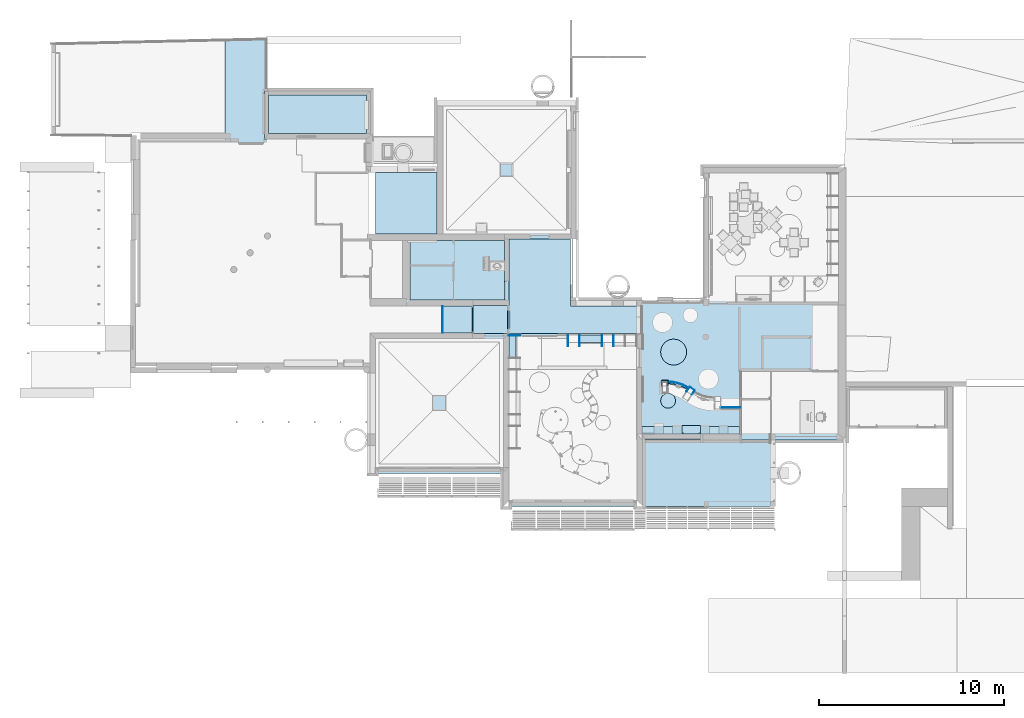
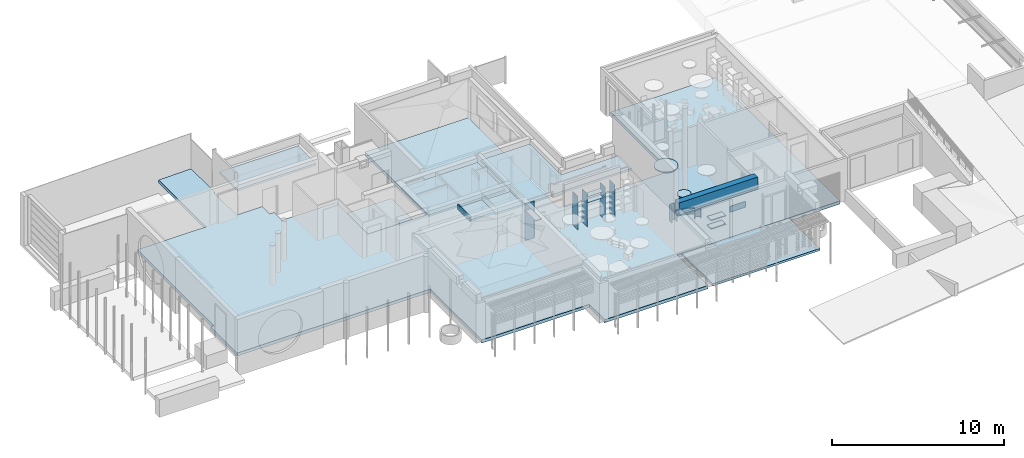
# One storey, part 12 of 64: 27 slabs, 2 openings.
"""IFC2X3 building model written with IfcOpenShell, lengths in metres."""

from ifc_helpers import new_model, entity, si_unit, converted_unit, derived_unit, direction, frame, frame_2d, origin, origin_2d_with_axis, place, context, subcontext, project, spatial, polyline, circle_curve, parameter, trimmed, segment, composite_curve, rectangle, circle, outline, extrude, material, layer, layer_set, layer_usage, type_object, element, save


model = new_model("IFC2X3")

# Units and contexts
model_context = context("Model", 3, precision=1e-05, world=origin(), true_north=direction((6.123031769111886e-17, 1.0)))
body_context = subcontext(model_context, "Body", "Model", "MODEL_VIEW")
ifc_project = project(units=[si_unit("LENGTHUNIT", "METRE"), si_unit("AREAUNIT", "SQUARE_METRE"), si_unit("VOLUMEUNIT", "CUBIC_METRE"), converted_unit("PLANEANGLEUNIT", "DEGREE", entity("IfcRatioMeasure", 0.017453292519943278), si_unit("PLANEANGLEUNIT", "RADIAN"), dimensions=[0, 0, 0, 0, 0, 0, 0]), si_unit("MASSUNIT", "GRAM", prefix="KILO"), derived_unit("MASSDENSITYUNIT", [(si_unit("MASSUNIT", "GRAM", prefix="KILO"), 1), (si_unit("LENGTHUNIT", "METRE"), -3)]), derived_unit("MOMENTOFINERTIAUNIT", [(si_unit("LENGTHUNIT", "METRE"), 4)]), si_unit("TIMEUNIT", "SECOND"), si_unit("FREQUENCYUNIT", "HERTZ"), si_unit("THERMODYNAMICTEMPERATUREUNIT", "DEGREE_CELSIUS"), derived_unit("THERMALTRANSMITTANCEUNIT", [(si_unit("MASSUNIT", "GRAM", prefix="KILO"), 1), (si_unit("THERMODYNAMICTEMPERATUREUNIT", "KELVIN"), -1), (si_unit("TIMEUNIT", "SECOND"), -3)]), derived_unit("THERMALCONDUCTANCEUNIT", [(si_unit("MASSUNIT", "GRAM", prefix="KILO"), 1), (si_unit("LENGTHUNIT", "METRE"), 1), (si_unit("THERMODYNAMICTEMPERATUREUNIT", "KELVIN"), -1), (si_unit("TIMEUNIT", "SECOND"), -3)]), derived_unit("VOLUMETRICFLOWRATEUNIT", [(si_unit("LENGTHUNIT", "METRE"), 3), (si_unit("TIMEUNIT", "SECOND"), -1)]), derived_unit("MASSFLOWRATEUNIT", [(si_unit("MASSUNIT", "GRAM", prefix="KILO"), 1), (si_unit("TIMEUNIT", "SECOND"), -1)]), derived_unit("ROTATIONALFREQUENCYUNIT", [(si_unit("TIMEUNIT", "SECOND"), -1)]), si_unit("ELECTRICCURRENTUNIT", "AMPERE"), si_unit("ELECTRICVOLTAGEUNIT", "VOLT"), si_unit("POWERUNIT", "WATT"), si_unit("FORCEUNIT", "NEWTON", prefix="KILO"), si_unit("ILLUMINANCEUNIT", "LUX"), si_unit("LUMINOUSFLUXUNIT", "LUMEN"), si_unit("LUMINOUSINTENSITYUNIT", "CANDELA"), derived_unit("USERDEFINED", [(si_unit("MASSUNIT", "GRAM", prefix="KILO"), -1), (si_unit("LENGTHUNIT", "METRE"), -2), (si_unit("TIMEUNIT", "SECOND"), 3), (si_unit("LUMINOUSFLUXUNIT", "LUMEN"), 1)]), derived_unit("USERDEFINED", [(si_unit("MASSUNIT", "GRAM", prefix="KILO"), 1), (si_unit("LENGTHUNIT", "METRE"), 3), (si_unit("TIMEUNIT", "SECOND"), -3), (si_unit("ELECTRICCURRENTUNIT", "AMPERE"), -2)]), derived_unit("USERDEFINED", [(si_unit("LENGTHUNIT", "METRE"), 2), (si_unit("TIMEUNIT", "SECOND"), -2)]), derived_unit("SOUNDPOWERUNIT", [(si_unit("MASSUNIT", "GRAM", prefix="KILO"), 1), (si_unit("LENGTHUNIT", "METRE"), 2), (si_unit("TIMEUNIT", "SECOND"), -3)]), derived_unit("SOUNDPRESSUREUNIT", [(si_unit("MASSUNIT", "GRAM", prefix="KILO"), 1), (si_unit("LENGTHUNIT", "METRE"), -1), (si_unit("TIMEUNIT", "SECOND"), -2)]), derived_unit("LINEARVELOCITYUNIT", [(si_unit("LENGTHUNIT", "METRE"), 1), (si_unit("TIMEUNIT", "SECOND"), -1)]), si_unit("PRESSUREUNIT", "PASCAL"), derived_unit("USERDEFINED", [(si_unit("LENGTHUNIT", "METRE"), -2), (si_unit("MASSUNIT", "GRAM", prefix="KILO"), 1), (si_unit("TIMEUNIT", "SECOND"), -2)]), derived_unit("LINEARFORCEUNIT", [(si_unit("MASSUNIT", "GRAM", prefix="KILO"), 1), (si_unit("LENGTHUNIT", "METRE"), 1), (si_unit("TIMEUNIT", "SECOND"), -2), (si_unit("LENGTHUNIT", "METRE"), -1)]), derived_unit("PLANARFORCEUNIT", [(si_unit("MASSUNIT", "GRAM", prefix="KILO"), 1), (si_unit("LENGTHUNIT", "METRE"), 1), (si_unit("TIMEUNIT", "SECOND"), -2), (si_unit("LENGTHUNIT", "METRE"), -2)]), derived_unit("SPECIFICHEATCAPACITYUNIT", [(si_unit("LENGTHUNIT", "METRE"), 2), (si_unit("TIMEUNIT", "SECOND"), -2), (si_unit("THERMODYNAMICTEMPERATUREUNIT", "KELVIN"), -1)]), derived_unit("VAPORPERMEABILITYUNIT", [(si_unit("TIMEUNIT", "SECOND"), 1), (si_unit("LENGTHUNIT", "METRE"), -1)]), derived_unit("DYNAMICVISCOSITYUNIT", [(si_unit("MASSUNIT", "GRAM", prefix="KILO"), 1), (si_unit("LENGTHUNIT", "METRE"), -1), (si_unit("TIMEUNIT", "SECOND"), -1)]), derived_unit("THERMALEXPANSIONCOEFFICIENTUNIT", [(si_unit("THERMODYNAMICTEMPERATUREUNIT", "KELVIN"), -1)])], contexts=[model_context])

# Site, building, storey
site_placement = place(None, origin())
site = spatial("IfcSite", under=ifc_project, at=site_placement, Name="Default", CompositionType="ELEMENT")
building_placement = place(site_placement, origin())
building = spatial("IfcBuilding", under=site, at=building_placement, CompositionType="ELEMENT")
storey_placement = place(building_placement, origin())
storey = spatial("IfcBuildingStorey", under=building, at=storey_placement, Name="REZ-DE-CHAUSSÉE", CompositionType="ELEMENT", Elevation=0.0)

# Slabs
ifc_material_1 = material(Name="Isolation - Fibre de verre")
ifc_layer_1 = layer(ifc_material_1, 0.12)
ifc_material_2 = material(Name="Plâtre - Plaques de plâtre")
ifc_layer_2 = layer(ifc_material_2, 0.02)
ifc_layer_set_1 = layer_set([ifc_layer_1, ifc_layer_2], Name="Sol:Dalle-007:1404")
ifc_layer_usage_1 = layer_usage(ifc_layer_set_1, "AXIS3", "POSITIVE", 0.0)
slab_type_1 = type_object("IfcSlabType", Name="Sol:Dalle-007:1404", PredefinedType="FLOOR", material=ifc_layer_set_1)
slab_1_placement = place(storey_placement, origin())
element("IfcSlab", 1, at=slab_1_placement, inside=storey, type_object=slab_type_1, material=ifc_layer_usage_1, Name="Sol:Dalle-007:1404", ObjectType="Sol:Dalle-007:1404", PredefinedType="FLOOR", context=body_context, shape_type="SweptSolid", body=[
    extrude(rectangle(XDim=1.4399999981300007, YDim=1.5799999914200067, at=frame_2d((-1.0547118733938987e-15, 0.0), x_axis=(1.0, 0.0))), frame((107.40075227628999, 14.267209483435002, 2.6399999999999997), z_axis=(0.0, 0.0, -1.0), x_axis=(0.0, 1.0, 0.0)), (0.0, 0.0, 1.0), 0.14000000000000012),
])
slab_2_placement = place(storey_placement, origin())
element("IfcSlab", 2, at=slab_2_placement, inside=storey, type_object=slab_type_1, material=ifc_layer_usage_1, Name="Sol:Dalle-007:1404", ObjectType="Sol:Dalle-007:1404", PredefinedType="FLOOR", context=body_context, shape_type="SweptSolid", body=[
    extrude(rectangle(XDim=1.500000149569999, YDim=1.8500000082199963, at=frame_2d((-1.1102230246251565e-15, -8.659739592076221e-15), x_axis=(1.0, 0.0))), frame((109.16575227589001, 14.267209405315, 2.5399999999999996), z_axis=(0.0, 0.0, -1.0), x_axis=(0.0, 1.0, 0.0)), (0.0, 0.0, 1.0), 0.14000000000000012),
])
slab_3_placement = place(storey_placement, origin())
element("IfcSlab", 3, at=slab_3_placement, inside=storey, type_object=slab_type_1, material=ifc_layer_usage_1, Name="Sol:Dalle-007:1404", ObjectType="Sol:Dalle-007:1404", PredefinedType="FLOOR", context=body_context, shape_type="SweptSolid", body=[
    extrude(rectangle(XDim=2.0799999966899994, YDim=5.279999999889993, at=origin_2d_with_axis()), frame((99.83075227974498, 25.357209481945, 1.55), z_axis=(0.0, 0.0, -1.0), x_axis=(0.0, 1.0, 0.0)), (0.0, 0.0, 1.0), 0.14000000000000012),
])
slab_4_placement = place(storey_placement, origin())
element("IfcSlab", 4, at=slab_4_placement, inside=storey, type_object=slab_type_1, material=ifc_layer_usage_1, Name="Sol:Dalle-007:1404", ObjectType="Sol:Dalle-007:1404", PredefinedType="FLOOR", context=body_context, shape_type="SweptSolid", body=[
    extrude(outline(polyline([(-2.19666666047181, -3.50000006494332), (2.903333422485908, -3.50000006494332), (2.903333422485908, -0.19000004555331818), (-0.7066667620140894, -0.19000004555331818), (-0.7066667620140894, 3.690000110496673), (-2.19666666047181, 3.690000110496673), (-2.19666666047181, -3.50000006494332)])), frame((113.69075231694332, 15.703876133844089, 2.539999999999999), z_axis=(0.0, 0.0, -1.0), x_axis=(0.0, 1.0, 0.0)), (0.0, 0.0, 1.0), 0.14000000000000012),
])
slab_5_placement = place(storey_placement, origin())
element("IfcSlab", 5, at=slab_5_placement, inside=storey, type_object=slab_type_1, material=ifc_layer_usage_1, Name="Sol:Dalle-007:1404", ObjectType="Sol:Dalle-007:1404", PredefinedType="FLOOR", context=body_context, shape_type="SweptSolid", body=[
    extrude(rectangle(XDim=3.2100000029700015, YDim=5.109999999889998, at=frame_2d((1.1102230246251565e-15, 0.0), x_axis=(1.0, 0.0))), frame((107.395752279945, 16.932209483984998, 2.52), z_axis=(0.0, 0.0, -1.0), x_axis=(0.0, 1.0, 0.0)), (0.0, 0.0, 1.0), 0.14000000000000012),
])
ifc_material_3 = material(Name="Appareillage - Pierre taillé")
ifc_layer_3 = layer(ifc_material_3, 0.14999999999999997)
ifc_layer_set_2 = layer_set([ifc_layer_3], Name="Sol:Dalle-004:1414")
ifc_layer_usage_2 = layer_usage(ifc_layer_set_2, "AXIS3", "POSITIVE", 0.0)
slab_type_2 = type_object("IfcSlabType", Name="Sol:Dalle-004:1414", PredefinedType="FLOOR", material=ifc_layer_set_2)
slab_6_placement = place(storey_placement, origin())
element("IfcSlab", 6, at=slab_6_placement, inside=storey, type_object=slab_type_2, material=ifc_layer_usage_2, Name="Sol:Dalle-004:1414", ObjectType="Sol:Dalle-004:1414", PredefinedType="FLOOR", context=body_context, shape_type="SweptSolid", body=[
    extrude(rectangle(XDim=3.5799999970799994, YDim=7.190000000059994, at=frame_2d((0.0, 8.659739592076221e-15), x_axis=(1.0, 0.0))), frame((120.98575228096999, 5.957209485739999, 0.0), z_axis=(0.0, 0.0, -1.0), x_axis=(0.0, 1.0, 0.0)), (0.0, 0.0, 1.0), 0.14999999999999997),
])
slab_7_placement = place(storey_placement, origin())
element("IfcSlab", 7, at=slab_7_placement, inside=storey, type_object=slab_type_2, material=ifc_layer_usage_2, Name="Sol:Dalle-004:1414", ObjectType="Sol:Dalle-004:1414", PredefinedType="FLOOR", context=body_context, shape_type="SweptSolid", body=[
    extrude(rectangle(XDim=3.329999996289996, YDim=3.3399999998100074, at=frame_2d((9.992007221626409e-16, -1.7319479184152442e-14), x_axis=(1.0, 0.0))), frame((104.63075227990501, 20.562209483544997, -1.0), z_axis=(0.0, 0.0, -1.0), x_axis=(0.0, 1.0, 0.0)), (0.0, 0.0, 1.0), 0.15000000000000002),
])
ifc_material_4 = material(Name="Bois - Pin granuleux horizontal")
ifc_layer_4 = layer(ifc_material_4, 0.02)
ifc_layer_set_3 = layer_set([ifc_layer_4], Name="Sol:Dalle-007:1415")
ifc_layer_usage_3 = layer_usage(ifc_layer_set_3, "AXIS3", "POSITIVE", 0.0)
slab_type_3 = type_object("IfcSlabType", Name="Sol:Dalle-007:1415", PredefinedType="FLOOR", material=ifc_layer_set_3)
slab_8_placement = place(storey_placement, origin())
element("IfcSlab", 8, at=slab_8_placement, inside=storey, type_object=slab_type_3, material=ifc_layer_usage_3, Name="Sol:Dalle-007:1415", ObjectType="Sol:Dalle-007:1415", PredefinedType="FLOOR", context=body_context, shape_type="SweptSolid", body=[
    extrude(outline(composite_curve([segment(polyline([(0.11183144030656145, -0.5379422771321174), (0.21183144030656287, -0.5379422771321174)]), True, "CONTINUOUS"), segment(trimmed(circle_curve(frame_2d((-1.7881685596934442, -0.5379422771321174), x_axis=(1.0, 0.0)), 2.000000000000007), [parameter(0.0)], [parameter(33.48616877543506)], True, "PARAMETER"), True, "CONTINUOUS"), segment(polyline([(-0.12013048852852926, 0.5655290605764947), (-0.20353239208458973, 0.5103554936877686)]), True, "CONTINUOUS"), segment(trimmed(circle_curve(frame_2d((-1.7881685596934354, -0.5379422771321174), x_axis=(0.8340190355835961, 0.5517356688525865)), 1.899999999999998), [parameter(326.51383122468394)], [parameter(0.0)], True, "PARAMETER"), False, "CONTINUOUS")], self_intersect=False)), frame((119.31702613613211, 10.675378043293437, 0.68), z_axis=(0.0, 0.0, -1.0), x_axis=(0.0, 1.0, 0.0)), (0.0, 0.0, 1.0), 0.020000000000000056),
])
slab_9_placement = place(storey_placement, origin())
element("IfcSlab", 9, at=slab_9_placement, inside=storey, type_object=slab_type_3, material=ifc_layer_usage_3, Name="Sol:Dalle-007:1415", ObjectType="Sol:Dalle-007:1415", PredefinedType="FLOOR", context=body_context, shape_type="SweptSolid", body=[
    extrude(rectangle(XDim=1.2000000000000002, YDim=0.400000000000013, at=origin_2d_with_axis()), frame((110.37075228, 12.7972094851, 2.14), z_axis=(0.0, 0.0, -1.0), x_axis=(0.0, 1.0, 0.0)), (0.0, 0.0, 1.0), 0.020000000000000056),
])
slab_10_placement = place(storey_placement, origin())
element("IfcSlab", 10, at=slab_10_placement, inside=storey, type_object=slab_type_3, material=ifc_layer_usage_3, Name="Sol:Dalle-007:1415", ObjectType="Sol:Dalle-007:1415", PredefinedType="FLOOR", context=body_context, shape_type="SweptSolid", body=[
    extrude(rectangle(XDim=0.4, YDim=1.2000000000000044, at=origin_2d_with_axis()), frame((114.580752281, 13.2272094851, 1.5199999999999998), z_axis=(0.0, 0.0, -1.0), x_axis=(0.0, 1.0, 0.0)), (0.0, 0.0, 1.0), 0.020000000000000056),
])
slab_11_placement = place(storey_placement, origin())
element("IfcSlab", 11, at=slab_11_placement, inside=storey, type_object=slab_type_3, material=ifc_layer_usage_3, Name="Sol:Dalle-007:1415", ObjectType="Sol:Dalle-007:1415", PredefinedType="FLOOR", context=body_context, shape_type="SweptSolid", body=[
    extrude(rectangle(XDim=0.4, YDim=1.2000000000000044, at=origin_2d_with_axis()), frame((114.58075228, 13.2272094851, 1.94), z_axis=(0.0, 0.0, -1.0), x_axis=(0.0, 1.0, 0.0)), (0.0, 0.0, 1.0), 0.020000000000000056),
])
ifc_layer_5 = layer(ifc_material_4, 1.1299999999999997)
ifc_layer_set_4 = layer_set([ifc_layer_5], Name="Sol:Dalle-006:1416")
ifc_layer_usage_4 = layer_usage(ifc_layer_set_4, "AXIS3", "POSITIVE", 0.0)
slab_type_4 = type_object("IfcSlabType", Name="Sol:Dalle-006:1416", PredefinedType="FLOOR", material=ifc_layer_set_4)
slab_12_placement = place(storey_placement, origin())
element("IfcSlab", 12, at=slab_12_placement, inside=storey, type_object=slab_type_4, material=ifc_layer_usage_4, Name="Sol:Dalle-006:1416", ObjectType="Sol:Dalle-006:1416", PredefinedType="FLOOR", context=body_context, shape_type="SweptSolid", body=[
    extrude(outline(polyline([(-0.17499999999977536, -0.15499999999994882), (0.17499999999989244, -0.15499999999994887), (0.17500000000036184, 0.14499999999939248), (0.1550000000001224, 0.1449999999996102), (0.15499999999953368, -0.13499999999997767), (-0.15500000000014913, -0.13499999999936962), (-0.1549999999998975, 0.1450000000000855), (-0.17500000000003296, 0.14500000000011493), (-0.17499999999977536, -0.15499999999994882)])), frame((120.00040681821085, 10.411338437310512, 1.1299999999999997), z_axis=(0.0, 0.0, -1.0), x_axis=(0.8340190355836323, -0.5517356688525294, 0.0)), (0.0, 0.0, 1.0), 1.1299999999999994),
])
slab_13_placement = place(storey_placement, origin())
element("IfcSlab", 13, at=slab_13_placement, inside=storey, type_object=slab_type_4, material=ifc_layer_usage_4, Name="Sol:Dalle-006:1416", ObjectType="Sol:Dalle-006:1416", PredefinedType="FLOOR", context=body_context, shape_type="SweptSolid", body=[
    extrude(outline(polyline([(-0.14499999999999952, -0.17499999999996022), (0.15500000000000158, -0.17499999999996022), (0.15500000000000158, 0.17500000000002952), (-0.14499999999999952, 0.17500000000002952), (-0.14499999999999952, 0.1549999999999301), (0.13499999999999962, 0.1549999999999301), (0.13499999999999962, -0.15499999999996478), (-0.14499999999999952, -0.15499999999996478), (-0.14499999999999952, -0.17499999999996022)])), frame((118.60139356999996, 10.8322094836, 1.1299999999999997), z_axis=(0.0, 0.0, -1.0), x_axis=(0.0, 1.0, 0.0)), (0.0, 0.0, 1.0), 1.1299999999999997),
])
ifc_layer_6 = layer(ifc_material_4, 0.03)
ifc_layer_set_5 = layer_set([ifc_layer_6], Name="Sol:Dalle-007:1417")
ifc_layer_usage_5 = layer_usage(ifc_layer_set_5, "AXIS3", "POSITIVE", 0.0)
slab_type_5 = type_object("IfcSlabType", Name="Sol:Dalle-007:1417", PredefinedType="FLOOR", material=ifc_layer_set_5)
slab_14_placement = place(storey_placement, origin())
element("IfcSlab", 14, at=slab_14_placement, inside=storey, type_object=slab_type_5, material=ifc_layer_usage_5, Name="Sol:Dalle-007:1417", ObjectType="Sol:Dalle-007:1417", PredefinedType="FLOOR", context=body_context, shape_type="SweptSolid", body=[
    extrude(rectangle(XDim=0.4499999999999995, YDim=0.999999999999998, at=frame_2d((0.0, -8.68749516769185e-15), x_axis=(1.0, 0.0))), frame((120.030752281, 8.30220948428, 1.3899999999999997), z_axis=(0.0, 0.0, -1.0), x_axis=(0.0, 1.0, 0.0)), (0.0, 0.0, 1.0), 0.029999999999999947),
])

# Slab, openings
slab_15_placement = place(storey_placement, frame((119.53075228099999, 8.07720948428, 0.7599999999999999)))
slab_15 = element("IfcSlab", 15, at=slab_15_placement, inside=storey, type_object=slab_type_5, material=ifc_layer_usage_5, Name="Sol:Dalle-007:1417", ObjectType="Sol:Dalle-007:1417", PredefinedType="FLOOR", context=body_context, shape_type="SweptSolid", body=[
    extrude(rectangle(XDim=0.999999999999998, YDim=0.4499999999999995, at=frame_2d((0.0, 0.0), x_axis=(-1.0, 0.0))), frame((0.5000000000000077, 0.22499999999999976, 0.029999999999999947), z_axis=(0.0, 0.0, -1.0), x_axis=(-1.0, 0.0, 0.0)), (0.0, 0.0, 1.0), 0.029999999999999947),
])
opening_1_placement = place(slab_15_placement, frame((0.9500000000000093, 0.050000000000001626, 0.029999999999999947)))
element("IfcOpeningElement", 16, at=opening_1_placement, cuts=slab_15, Name="Sol:Dalle-007:1417:2", ObjectType="Opening", context=body_context, shape_type="SweptSolid", body=[
    extrude(circle(Radius=0.03, at=origin_2d_with_axis()), frame((0.0, 0.0, 0.0), z_axis=(0.0, 0.0, -1.0), x_axis=(0.0, 1.0, 0.0)), (0.0, 0.0, 1.0), 0.029999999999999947),
])
opening_2_placement = place(slab_15_placement, frame((0.050000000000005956, 0.050000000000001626, 0.029999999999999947)))
element("IfcOpeningElement", 17, at=opening_2_placement, cuts=slab_15, Name="Sol:Dalle-007:1417:3", ObjectType="Opening", context=body_context, shape_type="SweptSolid", body=[
    extrude(circle(Radius=0.03, at=origin_2d_with_axis()), frame((0.0, 0.0, 0.0), z_axis=(0.0, 0.0, -1.0), x_axis=(0.0, 1.0, 0.0)), (0.0, 0.0, 1.0), 0.029999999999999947),
])

# Slabs
ifc_layer_7 = layer(ifc_material_4, 0.8)
ifc_layer_set_6 = layer_set([ifc_layer_7], Name="Sol:Dalle-006:1418")
ifc_layer_usage_6 = layer_usage(ifc_layer_set_6, "AXIS3", "POSITIVE", 0.0)
slab_type_6 = type_object("IfcSlabType", Name="Sol:Dalle-006:1418", PredefinedType="FLOOR", material=ifc_layer_set_6)
slab_16_placement = place(storey_placement, origin())
element("IfcSlab", 18, at=slab_16_placement, inside=storey, type_object=slab_type_6, material=ifc_layer_usage_6, Name="Sol:Dalle-006:1418", ObjectType="Sol:Dalle-006:1418", PredefinedType="FLOOR", context=body_context, shape_type="SweptSolid", body=[
    extrude(outline(composite_curve([segment(polyline([(0.1571819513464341, -0.557073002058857), (0.1771819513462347, -0.557073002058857)]), True, "CONTINUOUS"), segment(polyline([(0.1771819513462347, -0.557073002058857), (0.1771819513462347, -0.5543827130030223)]), True, "CONTINUOUS"), segment(trimmed(circle_curve(frame_2d((-1.8428180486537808, -0.5543827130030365), x_axis=(1.0, 0.0)), 2.0200000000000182), [parameter(0.0)], [parameter(33.4861687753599)], True, "PARAMETER"), True, "CONTINUOUS"), segment(polyline([(-0.15809959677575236, 0.5601233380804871), (-0.15958392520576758, 0.5623670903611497)]), True, "CONTINUOUS"), segment(polyline([(-0.1595839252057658, 0.5623670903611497), (-0.17626430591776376, 0.5513323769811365)]), True, "CONTINUOUS"), segment(polyline([(-0.17626430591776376, 0.5513323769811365), (-0.17477997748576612, 0.5490886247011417)]), True, "CONTINUOUS"), segment(trimmed(circle_curve(frame_2d((-1.8428180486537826, -0.5543827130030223), x_axis=(0.8340190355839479, 0.5517356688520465)), 2.0000000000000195), [parameter(326.51383122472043)], [parameter(0.0)], True, "PARAMETER"), False, "CONTINUOUS"), segment(polyline([(0.15718195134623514, -0.5543827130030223), (0.1571819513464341, -0.557073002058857)]), True, "CONTINUOUS")], self_intersect=False)), frame((119.33346657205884, 10.730027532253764, 1.0), z_axis=(0.0, 0.0, -1.0), x_axis=(0.0, 1.0, 0.0)), (0.0, 0.0, 1.0), 0.8),
])
ifc_layer_8 = layer(ifc_material_4, 0.06)
ifc_layer_set_7 = layer_set([ifc_layer_8], Name="Sol:Dalle-006:1419")
ifc_layer_usage_7 = layer_usage(ifc_layer_set_7, "AXIS3", "POSITIVE", 0.0)
slab_type_7 = type_object("IfcSlabType", Name="Sol:Dalle-006:1419", PredefinedType="FLOOR", material=ifc_layer_set_7)
slab_17_placement = place(storey_placement, origin())
element("IfcSlab", 19, at=slab_17_placement, inside=storey, type_object=slab_type_7, material=ifc_layer_usage_7, Name="Sol:Dalle-006:1419", ObjectType="Sol:Dalle-006:1419", PredefinedType="FLOOR", context=body_context, shape_type="SweptSolid", body=[
    extrude(circle(Radius=0.3999999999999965, at=frame_2d((-9.380809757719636e-29, 4.331468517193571e-15), x_axis=(1.0, 0.0))), frame((118.78075228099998, 9.87720948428, 2.4599999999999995), z_axis=(0.0, 0.0, -1.0), x_axis=(-1.0, 0.0, 0.0)), (0.0, 0.0, 1.0), 0.059999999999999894),
])
slab_18_placement = place(storey_placement, origin())
element("IfcSlab", 20, at=slab_18_placement, inside=storey, type_object=slab_type_7, material=ifc_layer_usage_7, Name="Sol:Dalle-006:1419", ObjectType="Sol:Dalle-006:1419", PredefinedType="FLOOR", context=body_context, shape_type="SweptSolid", body=[
    extrude(circle(Radius=0.6999999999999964, at=frame_2d((-5.360462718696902e-29, 4.331468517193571e-15), x_axis=(1.0, 0.0))), frame((119.080752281, 12.5072094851, 2.76), z_axis=(0.0, 0.0, -1.0), x_axis=(1.0, 0.0, 0.0)), (0.0, 0.0, 1.0), 0.059999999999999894),
])
ifc_layer_9 = layer(ifc_material_4, 0.4)
ifc_layer_set_8 = layer_set([ifc_layer_9], Name="Sol:Dalle-006:1420")
ifc_layer_usage_8 = layer_usage(ifc_layer_set_8, "AXIS3", "POSITIVE", 0.0)
slab_type_8 = type_object("IfcSlabType", Name="Sol:Dalle-006:1420", PredefinedType="FLOOR", material=ifc_layer_set_8)
slab_19_placement = place(storey_placement, origin())
element("IfcSlab", 21, at=slab_19_placement, inside=storey, type_object=slab_type_8, material=ifc_layer_usage_8, Name="Sol:Dalle-006:1420", ObjectType="Sol:Dalle-006:1420", PredefinedType="FLOOR", context=body_context, shape_type="SweptSolid", body=[
    extrude(rectangle(XDim=0.019999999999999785, YDim=1.0399999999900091, at=frame_2d((0.0, 8.659739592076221e-15), x_axis=(1.0, 0.0))), frame((122.155110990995, 9.51720948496, 0.7599999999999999), z_axis=(0.0, 0.0, -1.0), x_axis=(0.0, 1.0, 0.0)), (0.0, 0.0, 1.0), 0.4),
])
ifc_layer_10 = layer(ifc_material_3, 0.22)
ifc_layer_set_9 = layer_set([ifc_layer_10], Name="Sol:Dalle-004:1422")
ifc_layer_usage_9 = layer_usage(ifc_layer_set_9, "AXIS3", "POSITIVE", 0.0)
slab_type_9 = type_object("IfcSlabType", Name="Sol:Dalle-004:1422", PredefinedType="FLOOR", material=ifc_layer_set_9)
slab_20_placement = place(storey_placement, origin())
element("IfcSlab", 22, at=slab_20_placement, inside=storey, type_object=slab_type_9, material=ifc_layer_usage_9, Name="Sol:Dalle-004:1422", ObjectType="Sol:Dalle-004:1422", PredefinedType="FLOOR", context=body_context, shape_type="SweptSolid", body=[
    extrude(outline(polyline([(-6.497555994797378, -15.134999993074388), (-3.427555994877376, -15.134999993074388), (-3.427555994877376, -14.904999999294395), (5.462443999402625, -14.904999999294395), (5.462443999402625, -10.3049999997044), (10.938559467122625, -10.3049999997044), (10.988120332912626, -8.104999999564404), (8.212444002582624, -8.104999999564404), (8.212444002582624, -8.164999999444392), (5.612444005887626, -8.164999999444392), (5.612444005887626, -6.434999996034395), (4.7524440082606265, -6.434999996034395), (4.7524440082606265, -6.154999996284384), (3.8324440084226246, -6.154999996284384), (3.8324440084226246, -2.5349999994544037), (0.13244400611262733, -2.5349999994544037), (0.13244400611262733, 1.4650000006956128), (7.412444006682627, 1.4650000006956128), (7.412444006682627, 8.405000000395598), (0.20244400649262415, 8.405000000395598), (0.20244400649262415, 8.365000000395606), (-3.097556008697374, 8.365000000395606), (-3.097556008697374, 15.834999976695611), (3.7824440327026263, 15.834999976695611), (3.7824440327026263, 22.855000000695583), (-10.657555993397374, 22.855000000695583), (-10.657555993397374, 11.955000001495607), (-14.237555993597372, 11.955000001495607), (-14.237555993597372, 5.0350000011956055), (-12.447555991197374, 5.0350000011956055), (-12.447555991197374, -2.1749999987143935), (-6.497555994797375, -2.1749999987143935), (-6.497555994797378, -15.134999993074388)])), frame((105.1357522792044, 18.404765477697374, 0.0), z_axis=(0.0, 0.0, -1.0), x_axis=(0.0, 1.0, 0.0)), (0.0, 0.0, 1.0), 0.22),
])
ifc_layer_11 = layer(ifc_material_2, 0.37999999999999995)
ifc_layer_set_10 = layer_set([ifc_layer_11], Name="Sol:Dalle-007:1501")
ifc_layer_usage_10 = layer_usage(ifc_layer_set_10, "AXIS3", "POSITIVE", 0.0)
slab_type_10 = type_object("IfcSlabType", Name="Sol:Dalle-007:1501", PredefinedType="FLOOR", material=ifc_layer_set_10)
slab_21_placement = place(storey_placement, origin())
element("IfcSlab", 23, at=slab_21_placement, inside=storey, type_object=slab_type_10, material=ifc_layer_usage_10, Name="Sol:Dalle-007:1501", ObjectType="Sol:Dalle-007:1501", PredefinedType="FLOOR", context=body_context, shape_type="SweptSolid", body=[
    extrude(rectangle(XDim=1.4399999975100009, YDim=0.04999999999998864, at=origin_2d_with_axis()), frame((106.585752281, 14.267209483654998, 2.9000000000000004), z_axis=(0.0, 0.0, -1.0), x_axis=(0.0, 1.0, 0.0)), (0.0, 0.0, 1.0), 0.3800000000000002),
])
ifc_layer_12 = layer(ifc_material_1, 0.86)
ifc_layer_set_11 = layer_set([ifc_layer_12], Name="Sol:Dalle-009:1503")
ifc_layer_usage_11 = layer_usage(ifc_layer_set_11, "AXIS3", "POSITIVE", 0.0)
slab_type_11 = type_object("IfcSlabType", Name="Sol:Dalle-009:1503", PredefinedType="FLOOR", material=ifc_layer_set_11)
slab_22_placement = place(storey_placement, origin())
element("IfcSlab", 24, at=slab_22_placement, inside=storey, type_object=slab_type_11, material=ifc_layer_usage_11, Name="Sol:Dalle-009:1503", ObjectType="Sol:Dalle-009:1503", PredefinedType="FLOOR", context=body_context, shape_type="SweptSolid", body=[
    extrude(rectangle(XDim=0.4, YDim=5.3000000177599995, at=origin_2d_with_axis()), frame((120.03075228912, 8.277209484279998, 3.3599999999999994), z_axis=(0.0, 0.0, -1.0), x_axis=(0.0, 1.0, 0.0)), (0.0, 0.0, 1.0), 0.86),
])
ifc_layer_13 = layer(ifc_material_4, 2.6)
ifc_layer_set_12 = layer_set([ifc_layer_13], Name="Sol:Dalle-006:1522")
ifc_layer_usage_12 = layer_usage(ifc_layer_set_12, "AXIS3", "POSITIVE", 0.0)
slab_type_12 = type_object("IfcSlabType", Name="Sol:Dalle-006:1522", PredefinedType="FLOOR", material=ifc_layer_set_12)
slab_23_placement = place(storey_placement, origin())
element("IfcSlab", 25, at=slab_23_placement, inside=storey, type_object=slab_type_12, material=ifc_layer_usage_12, Name="Sol:Dalle-006:1522", ObjectType="Sol:Dalle-006:1522", PredefinedType="FLOOR", context=body_context, shape_type="SweptSolid", body=[
    extrude(outline(composite_curve([segment(polyline([(-0.009999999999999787, -0.29999999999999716), (0.009999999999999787, -0.29999999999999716)]), True, "CONTINUOUS"), segment(polyline([(0.009999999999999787, -0.29999999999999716), (0.009999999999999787, 0.29999999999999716)]), True, "CONTINUOUS"), segment(trimmed(circle_curve(frame_2d((0.0, 0.29999999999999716), x_axis=(1.0, 0.0)), 0.010000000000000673), [parameter(0.0)], [parameter(180.00000000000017)], True, "PARAMETER"), True, "CONTINUOUS"), segment(polyline([(-0.00999999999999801, 0.29999999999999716), (-0.009999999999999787, -0.29999999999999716)]), True, "CONTINUOUS")], self_intersect=False)), frame((110.47075228, 13.4072094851, 2.6), z_axis=(0.0, 0.0, -1.0), x_axis=(0.0, 1.0, 0.0)), (0.0, 0.0, 1.0), 2.6),
])
ifc_layer_14 = layer(ifc_material_4, 2.35)
ifc_layer_set_13 = layer_set([ifc_layer_14], Name="Sol:Dalle-006")
ifc_layer_usage_13 = layer_usage(ifc_layer_set_13, "AXIS3", "POSITIVE", 0.0)
slab_type_13 = type_object("IfcSlabType", Name="Sol:Dalle-006", PredefinedType="FLOOR", material=ifc_layer_set_13)
slab_24_placement = place(storey_placement, origin())
element("IfcSlab", 26, at=slab_24_placement, inside=storey, type_object=slab_type_13, material=ifc_layer_usage_13, Name="Sol:Dalle-006", ObjectType="Sol:Dalle-006", PredefinedType="FLOOR", context=body_context, shape_type="SweptSolid", body=[
    extrude(outline(composite_curve([segment(polyline([(-0.29999999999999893, -0.009999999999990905), (0.29999999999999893, -0.009999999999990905)]), True, "CONTINUOUS"), segment(polyline([(0.29999999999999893, -0.009999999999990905), (0.29999999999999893, 0.010000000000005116)]), True, "CONTINUOUS"), segment(polyline([(0.29999999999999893, 0.010000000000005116), (-0.29999999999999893, 0.010000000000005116)]), True, "CONTINUOUS"), segment(trimmed(circle_curve(frame_2d((-0.3000000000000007, 0.0), x_axis=(0.0, 1.0)), 0.009999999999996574), [parameter(0.0)], [parameter(180.00000000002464)], True, "PARAMETER"), True, "CONTINUOUS")], self_intersect=False)), frame((115.83075228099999, 13.1272094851, 2.35), z_axis=(0.0, 0.0, -1.0), x_axis=(0.0, 1.0, 0.0)), (0.0, 0.0, 1.0), 2.35),
])
slab_25_placement = place(storey_placement, origin())
element("IfcSlab", 27, at=slab_25_placement, inside=storey, type_object=slab_type_13, material=ifc_layer_usage_13, Name="Sol:Dalle-006", ObjectType="Sol:Dalle-006", PredefinedType="FLOOR", context=body_context, shape_type="SweptSolid", body=[
    extrude(outline(composite_curve([segment(polyline([(-0.29999999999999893, -0.010000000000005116), (0.29999999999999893, -0.010000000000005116)]), True, "CONTINUOUS"), segment(polyline([(0.29999999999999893, -0.010000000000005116), (0.29999999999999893, 0.009999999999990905)]), True, "CONTINUOUS"), segment(polyline([(0.29999999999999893, 0.009999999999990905), (-0.29999999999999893, 0.009999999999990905)]), True, "CONTINUOUS"), segment(trimmed(circle_curve(frame_2d((-0.3000000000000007, 0.0), x_axis=(0.0, 1.0)), 0.009999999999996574), [parameter(0.0)], [parameter(180.00000000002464)], True, "PARAMETER"), True, "CONTINUOUS")], self_intersect=False)), frame((115.210752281, 13.1272094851, 2.35), z_axis=(0.0, 0.0, -1.0), x_axis=(0.0, 1.0, 0.0)), (0.0, 0.0, 1.0), 2.35),
])
slab_26_placement = place(storey_placement, origin())
element("IfcSlab", 28, at=slab_26_placement, inside=storey, type_object=slab_type_13, material=ifc_layer_usage_13, Name="Sol:Dalle-006", ObjectType="Sol:Dalle-006", PredefinedType="FLOOR", context=body_context, shape_type="SweptSolid", body=[
    extrude(outline(composite_curve([segment(polyline([(-0.29999999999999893, -0.010000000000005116), (0.29999999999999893, -0.010000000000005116)]), True, "CONTINUOUS"), segment(polyline([(0.29999999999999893, -0.010000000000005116), (0.29999999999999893, 0.009999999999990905)]), True, "CONTINUOUS"), segment(polyline([(0.29999999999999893, 0.009999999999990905), (-0.29999999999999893, 0.009999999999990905)]), True, "CONTINUOUS"), segment(trimmed(circle_curve(frame_2d((-0.3000000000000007, 0.0), x_axis=(0.0, 1.0)), 0.009999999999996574), [parameter(0.0)], [parameter(180.00000000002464)], True, "PARAMETER"), True, "CONTINUOUS")], self_intersect=False)), frame((113.990752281, 13.1272094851, 2.35), z_axis=(0.0, 0.0, -1.0), x_axis=(0.0, 1.0, 0.0)), (0.0, 0.0, 1.0), 2.35),
])
slab_27_placement = place(storey_placement, origin())
element("IfcSlab", 29, at=slab_27_placement, inside=storey, type_object=slab_type_13, material=ifc_layer_usage_13, Name="Sol:Dalle-006", ObjectType="Sol:Dalle-006", PredefinedType="FLOOR", context=body_context, shape_type="SweptSolid", body=[
    extrude(outline(composite_curve([segment(polyline([(-0.29999999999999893, -0.009999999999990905), (0.29999999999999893, -0.009999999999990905)]), True, "CONTINUOUS"), segment(polyline([(0.29999999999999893, -0.009999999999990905), (0.29999999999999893, 0.009999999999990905)]), True, "CONTINUOUS"), segment(polyline([(0.29999999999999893, 0.009999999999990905), (-0.29999999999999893, 0.009999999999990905)]), True, "CONTINUOUS"), segment(trimmed(circle_curve(frame_2d((-0.3000000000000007, 0.0), x_axis=(0.0, 1.0)), 0.009999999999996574), [parameter(0.0)], [parameter(180.00000000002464)], True, "PARAMETER"), True, "CONTINUOUS")], self_intersect=False)), frame((113.370752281, 13.1272094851, 2.35), z_axis=(0.0, 0.0, -1.0), x_axis=(0.0, 1.0, 0.0)), (0.0, 0.0, 1.0), 2.35),
])

save(model, "model.ifc")
